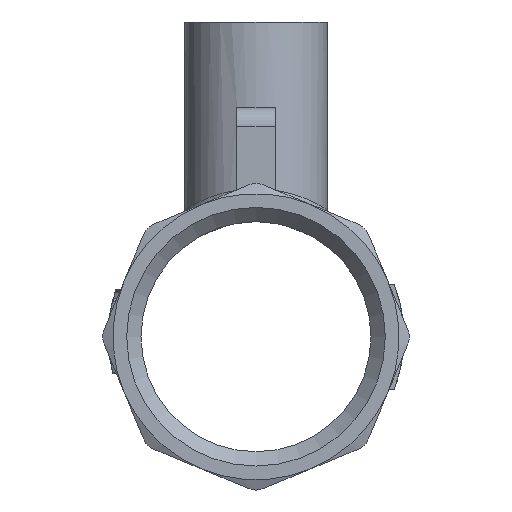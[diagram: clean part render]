
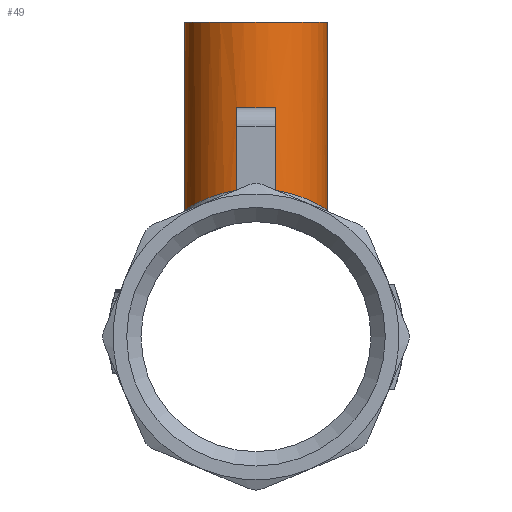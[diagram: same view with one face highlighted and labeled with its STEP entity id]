
A CAD part, front view. The second image highlights one B-rep face of the part: STEP entity #49.
In plain terms, the highlighted cylindrical face has radius 7.5 mm (diameter 15 mm), a full revolution.
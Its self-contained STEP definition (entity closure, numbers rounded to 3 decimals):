
#49=ADVANCED_FACE('',(#301,#303),#305,.T.);
#301=FACE_BOUND('',#302,.T.);
#302=EDGE_LOOP('',(#2024,#2025,#2026,#2027,#2028));
#303=FACE_OUTER_BOUND('',#304,.T.);
#304=EDGE_LOOP('',(#2029));
#305=CYLINDRICAL_SURFACE('',#306,7.5);
#306=AXIS2_PLACEMENT_3D('',#307,#308,#309);
#307=CARTESIAN_POINT('',(0.,0.,0.));
#308=DIRECTION('',(0.,0.,1.));
#309=DIRECTION('',(-1.,0.,0.));
#2024=ORIENTED_EDGE('',*,*,#3340,.F.);
#2025=ORIENTED_EDGE('',*,*,#3341,.T.);
#2026=ORIENTED_EDGE('',*,*,#3342,.T.);
#2027=ORIENTED_EDGE('',*,*,#3343,.F.);
#2028=ORIENTED_EDGE('',*,*,#3344,.F.);
#2029=ORIENTED_EDGE('',*,*,#3334,.F.);
#3334=EDGE_CURVE('',#3892,#3892,#3893,.T.);
#3340=EDGE_CURVE('',#3904,#3905,#3906,.T.);
#3341=EDGE_CURVE('',#3904,#3907,#3908,.T.);
#3342=EDGE_CURVE('',#3907,#3909,#3910,.T.);
#3343=EDGE_CURVE('',#3911,#3909,#3912,.F.);
#3344=EDGE_CURVE('',#3905,#3911,#3913,.F.);
#3892=VERTEX_POINT('',#4889);
#3893=CIRCLE('',#4890,7.5);
#3904=VERTEX_POINT('',#4919);
#3905=VERTEX_POINT('',#4920);
#3906=LINE('',#4921,#4922);
#3907=VERTEX_POINT('',#4924);
#3908=B_SPLINE_CURVE_WITH_KNOTS('',3,
(#4925,#4926,#4927,#4928,#4929,#4930,#4931,#4932,#4933,#4934,#4935,#4936,#4937,#4938,
#4939,#4940,#4941,#4942,#4943,#4944,#4945,#4946,#4947,#4948,#4949,#4950,#4951,#4952,
#4953,#4954,#4955,#4956,#4957,#4958,#4959,#4960,#4961,#4962,#4963,#4964,#4965,#4966,
#4967,#4968,#4969),
.UNSPECIFIED.,.F.,.F.,
(4,1,1,1,1,1,1,1,1,1,1,1,1,1,1,1,1,1,1,1,1,1,1,1,1,1,1,1,1,1,1,1,1,1,1,1,1,1,1,1,
1,1,4),
(0.,0.032,0.062,0.093,0.126,0.16,
0.188,0.215,0.239,0.261,0.281,
0.301,0.322,0.343,0.366,0.389,
0.41,0.431,0.451,0.473,0.499,
0.525,0.551,0.575,0.596,0.615,
0.632,0.649,0.667,0.686,0.708,
0.731,0.755,0.782,0.812,0.843,
0.874,0.902,0.929,0.952,0.975,
0.99,1.),
.UNSPECIFIED.);
#3909=VERTEX_POINT('',#4970);
#3910=B_SPLINE_CURVE_WITH_KNOTS('',3,
(#4971,#4972,#4973,#4974,#4975,#4976,#4977,#4978,#4979,#4980,#4981,#4982,#4983,#4984,
#4985,#4986,#4987,#4988),
.UNSPECIFIED.,.F.,.F.,
(4,1,1,1,1,1,1,1,1,1,1,1,1,1,1,4),
(0.,0.072,0.136,0.195,0.258,0.326,
0.397,0.468,0.537,0.615,0.696,
0.778,0.847,0.917,0.966,1.),
.UNSPECIFIED.);
#3911=VERTEX_POINT('',#4989);
#3912=LINE('',#4990,#4991);
#3913=CIRCLE('',#4993,7.5);
#4889=CARTESIAN_POINT('',(-7.5,0.,33.));
#4890=AXIS2_PLACEMENT_3D('',#4891,#4892,#4893);
#4891=CARTESIAN_POINT('',(0.,0.,33.));
#4892=DIRECTION('',(0.,0.,1.));
#4893=DIRECTION('',(-1.,0.,0.));
#4919=CARTESIAN_POINT('',(2.,-7.228,15.352));
#4920=CARTESIAN_POINT('',(2.,-7.228,24.));
#4921=CARTESIAN_POINT('',(2.,-7.228,15.352));
#4922=VECTOR('',#4923,1.);
#4923=DIRECTION('',(0.,0.,1.));
#4924=CARTESIAN_POINT('',(-7.5,0.,13.276));
#4925=CARTESIAN_POINT('',(2.,-7.228,15.352));
#4926=CARTESIAN_POINT('',(2.35,-7.132,15.305));
#4927=CARTESIAN_POINT('',(3.007,-6.897,15.174));
#4928=CARTESIAN_POINT('',(3.924,-6.418,14.935));
#4929=CARTESIAN_POINT('',(4.772,-5.818,14.65));
#4930=CARTESIAN_POINT('',(5.55,-5.084,14.334));
#4931=CARTESIAN_POINT('',(6.198,-4.264,14.025));
#4932=CARTESIAN_POINT('',(6.694,-3.423,13.76));
#4933=CARTESIAN_POINT('',(7.042,-2.625,13.56));
#4934=CARTESIAN_POINT('',(7.279,-1.858,13.415));
#4935=CARTESIAN_POINT('',(7.424,-1.139,13.324));
#4936=CARTESIAN_POINT('',(7.498,-0.439,13.278));
#4937=CARTESIAN_POINT('',(7.507,0.248,13.272));
#4938=CARTESIAN_POINT('',(7.451,0.949,13.307));
#4939=CARTESIAN_POINT('',(7.326,1.662,13.386));
#4940=CARTESIAN_POINT('',(7.126,2.38,13.509));
#4941=CARTESIAN_POINT('',(6.855,3.072,13.668));
#4942=CARTESIAN_POINT('',(6.53,3.711,13.849));
#4943=CARTESIAN_POINT('',(6.165,4.288,14.038));
#4944=CARTESIAN_POINT('',(5.748,4.834,14.239));
#4945=CARTESIAN_POINT('',(5.246,5.379,14.46));
#4946=CARTESIAN_POINT('',(4.634,5.918,14.697));
#4947=CARTESIAN_POINT('',(3.934,6.405,14.929));
#4948=CARTESIAN_POINT('',(3.19,6.804,15.129));
#4949=CARTESIAN_POINT('',(2.458,7.099,15.283));
#4950=CARTESIAN_POINT('',(1.758,7.302,15.392));
#4951=CARTESIAN_POINT('',(1.111,7.426,15.459));
#4952=CARTESIAN_POINT('',(0.502,7.491,15.495));
#4953=CARTESIAN_POINT('',(-0.09,7.507,15.504));
#4954=CARTESIAN_POINT('',(-0.704,7.476,15.487));
#4955=CARTESIAN_POINT('',(-1.364,7.386,15.437));
#4956=CARTESIAN_POINT('',(-2.069,7.222,15.349));
#4957=CARTESIAN_POINT('',(-2.804,6.971,15.216));
#4958=CARTESIAN_POINT('',(-3.555,6.622,15.036));
#4959=CARTESIAN_POINT('',(-4.322,6.153,14.807));
#4960=CARTESIAN_POINT('',(-5.074,5.553,14.532));
#4961=CARTESIAN_POINT('',(-5.771,4.826,14.233));
#4962=CARTESIAN_POINT('',(-6.354,4.025,13.944));
#4963=CARTESIAN_POINT('',(-6.807,3.192,13.697));
#4964=CARTESIAN_POINT('',(-7.125,2.389,13.51));
#4965=CARTESIAN_POINT('',(-7.338,1.612,13.379));
#4966=CARTESIAN_POINT('',(-7.452,0.931,13.307));
#4967=CARTESIAN_POINT('',(-7.494,0.391,13.28));
#4968=CARTESIAN_POINT('',(-7.5,0.107,13.276));
#4969=CARTESIAN_POINT('',(-7.5,0.,13.276));
#4970=CARTESIAN_POINT('',(-2.,-7.228,15.352));
#4971=CARTESIAN_POINT('',(-7.5,0.,13.276));
#4972=CARTESIAN_POINT('',(-7.5,-0.239,13.276));
#4973=CARTESIAN_POINT('',(-7.478,-0.689,13.29));
#4974=CARTESIAN_POINT('',(-7.39,-1.327,13.346));
#4975=CARTESIAN_POINT('',(-7.258,-1.922,13.429));
#4976=CARTESIAN_POINT('',(-7.075,-2.515,13.539));
#4977=CARTESIAN_POINT('',(-6.83,-3.122,13.682));
#4978=CARTESIAN_POINT('',(-6.522,-3.724,13.853));
#4979=CARTESIAN_POINT('',(-6.159,-4.298,14.041));
#4980=CARTESIAN_POINT('',(-5.733,-4.853,14.246));
#4981=CARTESIAN_POINT('',(-5.235,-5.389,14.464));
#4982=CARTESIAN_POINT('',(-4.654,-5.899,14.689));
#4983=CARTESIAN_POINT('',(-4.04,-6.333,14.894));
#4984=CARTESIAN_POINT('',(-3.413,-6.69,15.071));
#4985=CARTESIAN_POINT('',(-2.848,-6.947,15.203));
#4986=CARTESIAN_POINT('',(-2.372,-7.119,15.294));
#4987=CARTESIAN_POINT('',(-2.108,-7.199,15.337));
#4988=CARTESIAN_POINT('',(-2.,-7.228,15.352));
#4989=CARTESIAN_POINT('',(-2.,-7.228,24.));
#4990=CARTESIAN_POINT('',(-2.,-7.228,15.352));
#4991=VECTOR('',#4992,1.);
#4992=DIRECTION('',(0.,0.,1.));
#4993=AXIS2_PLACEMENT_3D('',#4994,#4995,#4996);
#4994=CARTESIAN_POINT('',(0.,0.,24.));
#4995=DIRECTION('',(0.,0.,1.));
#4996=DIRECTION('',(-0.267,-0.964,0.));
